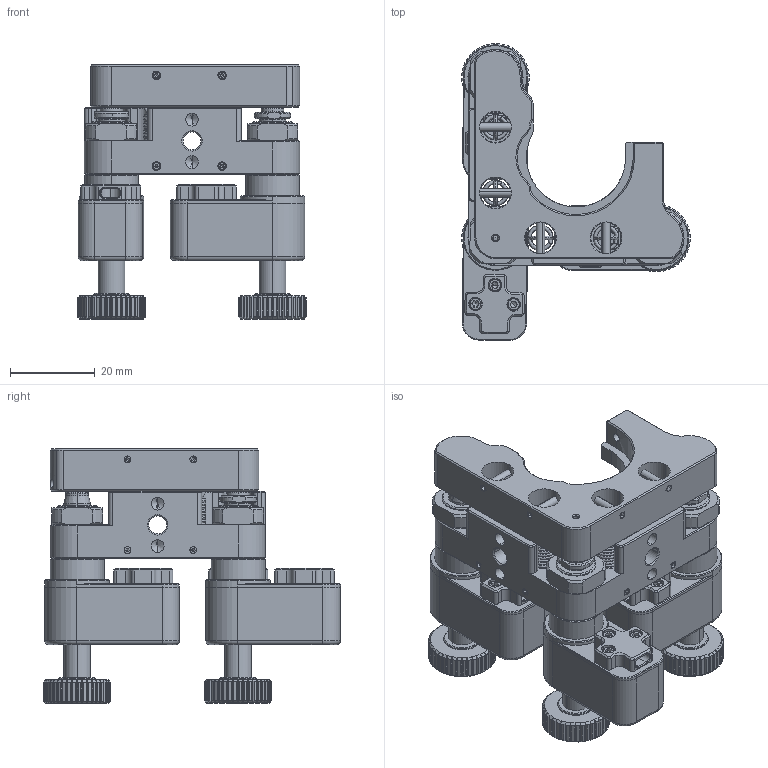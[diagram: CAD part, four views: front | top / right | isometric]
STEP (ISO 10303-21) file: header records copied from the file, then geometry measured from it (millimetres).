
FILE_DESCRIPTION (( 'STEP AP203' ), '1' );
FILE_NAME ('俋倛喜渡芞-N81K8ZT25-B-24.06.13.STEP', '2024-11-18T08:20:57', ( 'Windows User' ), ( 'P R C' ), 'SwSTEP 2.0', 'SolidWorks 2016', '' );
FILE_SCHEMA (( 'CONFIG_CONTROL_DESIGN' ));
Length unit declared in the file: millimetre
Products named in the file (1): 俋倛喜渡芞-N81K8ZT25-B-24.06.13
Bounding box: 53.89 x 70.09 x 60.04 mm (x, y, z)
Volume: 52193.4 mm3; surface area: 38233.4 mm2
Topology: 59 solids, 59 shells, 2500 faces, 6203 edges, 3811 vertices
Faces by surface type: plane 989, cylinder 885, cone 501, torus 71, bspline 48, sphere 6
Entity records: 98629 total; most frequent: CARTESIAN_POINT 40410, ORIENTED_EDGE 12168, DIRECTION 12058, EDGE_CURVE 6084, AXIS2_PLACEMENT_3D 4628, VERTEX_POINT 3802, LINE 2802, VECTOR 2802
